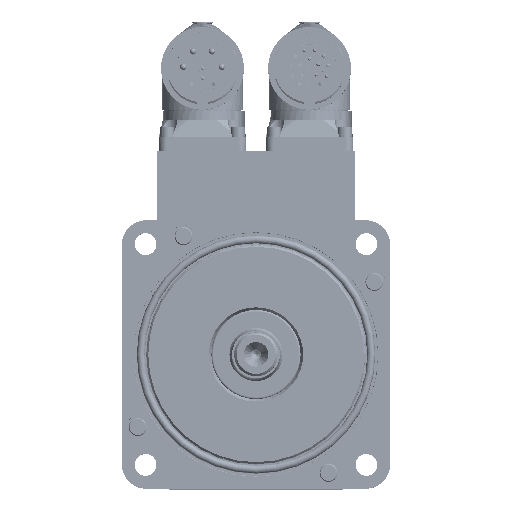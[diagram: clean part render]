
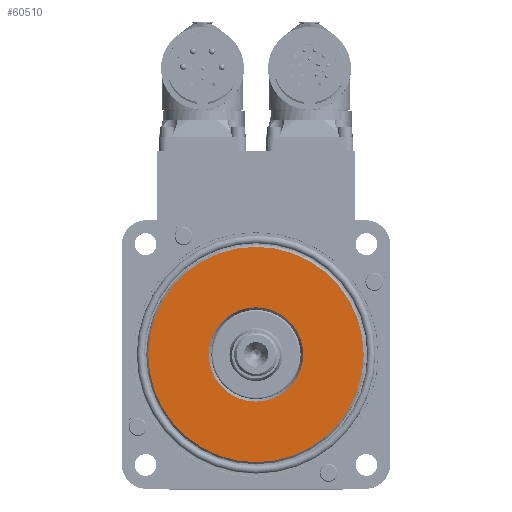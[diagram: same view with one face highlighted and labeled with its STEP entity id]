
A CAD part, top view. The second image highlights one B-rep face of the part: STEP entity #60510.
In plain terms, the highlighted planar face has unit normal (0, 0, 1).
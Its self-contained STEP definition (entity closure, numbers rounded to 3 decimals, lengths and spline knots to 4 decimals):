
#12189 = CARTESIAN_POINT ( 'NONE',  ( 0., 0., -1.0639 ) ) ;
#26933 = DIRECTION ( 'NONE',  ( -1., 0., 0. ) ) ;
#55935 = FACE_OUTER_BOUND ( 'NONE', #273917, .T. ) ;
#57235 = AXIS2_PLACEMENT_3D ( 'NONE', #450330, #537413, #582376 ) ;
#59803 = CARTESIAN_POINT ( 'NONE',  ( 0., 0., -1.0639 ) ) ;
#60510 = ADVANCED_FACE ( 'NONE', ( #469543, #55935 ), #244687, .T. ) ;
#70928 = CIRCLE ( 'NONE', #453781, 1.358 ) ;
#78756 = EDGE_CURVE ( 'NONE', #470748, #408157, #220201, .T. ) ;
#81572 = CARTESIAN_POINT ( 'NONE',  ( 0., 0., -1.0639 ) ) ;
#98695 = CARTESIAN_POINT ( 'NONE',  ( 0.5943, 0., -1.0639 ) ) ;
#102137 = VERTEX_POINT ( 'NONE', #410910 ) ;
#108275 = AXIS2_PLACEMENT_3D ( 'NONE', #382529, #472491, #238775 ) ;
#126868 = ORIENTED_EDGE ( 'NONE', *, *, #564159, .F. ) ;
#158592 = DIRECTION ( 'NONE',  ( -1., 0., 0. ) ) ;
#195022 = DIRECTION ( 'NONE',  ( 0., 0., -1. ) ) ;
#201673 = AXIS2_PLACEMENT_3D ( 'NONE', #12189, #195022, #26933 ) ;
#220201 = CIRCLE ( 'NONE', #57235, 0.5943 ) ;
#227010 = EDGE_CURVE ( 'NONE', #408157, #470748, #517970, .T. ) ;
#238775 = DIRECTION ( 'NONE',  ( 1., 0., 0. ) ) ;
#244687 = PLANE ( 'NONE',  #108275 ) ;
#252563 = DIRECTION ( 'NONE',  ( 0., 0., -1. ) ) ;
#264379 = DIRECTION ( 'NONE',  ( -1., 0., 0. ) ) ;
#273917 = EDGE_LOOP ( 'NONE', ( #282968, #126868 ) ) ;
#282968 = ORIENTED_EDGE ( 'NONE', *, *, #345569, .F. ) ;
#311706 = AXIS2_PLACEMENT_3D ( 'NONE', #81572, #252563, #264379 ) ;
#323762 = ORIENTED_EDGE ( 'NONE', *, *, #78756, .T. ) ;
#345569 = EDGE_CURVE ( 'NONE', #507253, #102137, #445567, .T. ) ;
#382529 = CARTESIAN_POINT ( 'NONE',  ( 0., 1.358, -1.0639 ) ) ;
#391257 = EDGE_LOOP ( 'NONE', ( #323762, #542381 ) ) ;
#408157 = VERTEX_POINT ( 'NONE', #428649 ) ;
#410910 = CARTESIAN_POINT ( 'NONE',  ( 1.358, 0., -1.0639 ) ) ;
#428649 = CARTESIAN_POINT ( 'NONE',  ( -0.5943, 0., -1.0639 ) ) ;
#445567 = CIRCLE ( 'NONE', #311706, 1.358 ) ;
#450330 = CARTESIAN_POINT ( 'NONE',  ( 0., 0., -1.0639 ) ) ;
#453781 = AXIS2_PLACEMENT_3D ( 'NONE', #59803, #515499, #158592 ) ;
#469543 = FACE_BOUND ( 'NONE', #391257, .T. ) ;
#470748 = VERTEX_POINT ( 'NONE', #98695 ) ;
#472491 = DIRECTION ( 'NONE',  ( 0., 0., 1. ) ) ;
#486927 = CARTESIAN_POINT ( 'NONE',  ( -1.358, 0., -1.0639 ) ) ;
#507253 = VERTEX_POINT ( 'NONE', #486927 ) ;
#515499 = DIRECTION ( 'NONE',  ( 0., 0., -1. ) ) ;
#517970 = CIRCLE ( 'NONE', #201673, 0.5943 ) ;
#537413 = DIRECTION ( 'NONE',  ( 0., 0., -1. ) ) ;
#542381 = ORIENTED_EDGE ( 'NONE', *, *, #227010, .T. ) ;
#564159 = EDGE_CURVE ( 'NONE', #102137, #507253, #70928, .T. ) ;
#582376 = DIRECTION ( 'NONE',  ( -1., 0., 0. ) ) ;
